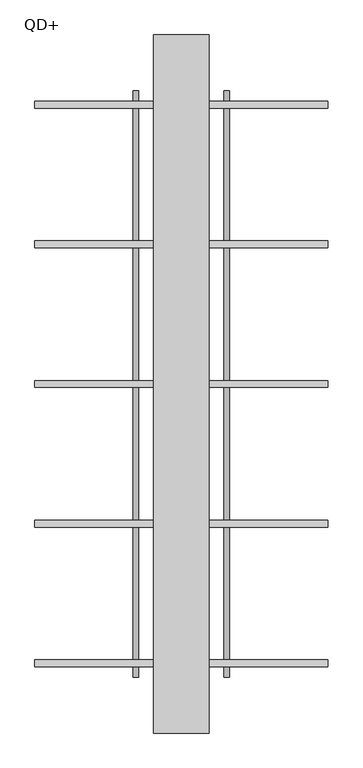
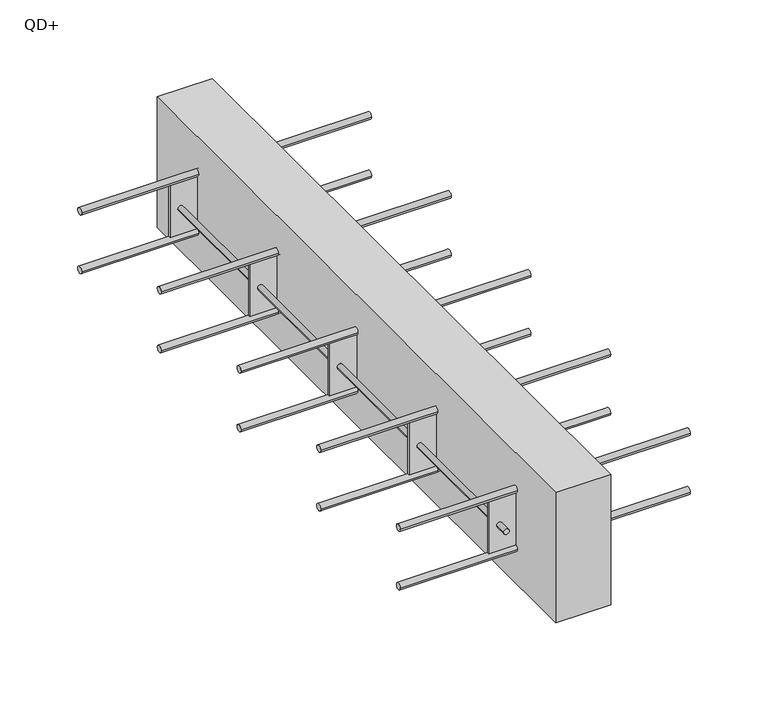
"""IFC4 building model written with IfcOpenShell, lengths in millimetres: proxy geometry, ACINOXplus_Typenreihe_Q : QD+."""

from ifc_helpers import new_model, si_unit, point, frame, frame_2d, origin, place, context, project, spatial, polyline, circle_curve, trimmed, segment, composite_curve, outline, extrude, source, transform, mapped, element, save


def qd_fc6c0e46(model_context):
    return source(origin(), model_context, "Body", "SweptSolid", [
        extrude(outline(polyline([(40.0, 500.0), (40.0, -500.0), (-40.0, -500.0), (-40.0, 500.0), (40.0, 500.0)])), frame((0.0, 0.0, -200.0), z_axis=(0.0, 0.0, 1.0), x_axis=(1.0, 0.0, 0.0)), (0.0, 0.0, 1.0), 200.0),
        extrude(outline(polyline([(80.0, -198.5), (80.0, -201.5), (-80.0, -201.5), (-80.0, -198.5), (80.0, -198.5)])), frame((0.0, 0.0, -140.0), z_axis=(0.0, 0.0, 1.0), x_axis=(1.0, 0.0, 0.0)), (0.0, 0.0, 1.0), 80.0),
        extrude(outline(polyline([(80.0, 1.5), (80.0, -1.5), (-80.0, -1.5), (-80.0, 1.5), (80.0, 1.5)])), frame((0.0, 0.0, -140.0), z_axis=(0.0, 0.0, 1.0), x_axis=(1.0, 0.0, 0.0)), (0.0, 0.0, 1.0), 80.0),
        extrude(outline(polyline([(80.0, 201.5), (80.0, 198.5), (-80.0, 198.5), (-80.0, 201.5), (80.0, 201.5)])), frame((0.0, 0.0, -140.0), z_axis=(0.0, 0.0, 1.0), x_axis=(1.0, 0.0, 0.0)), (0.0, 0.0, 1.0), 80.0),
        extrude(outline(polyline([(80.0, -398.5), (80.0, -401.5), (-80.0, -401.5), (-80.0, -398.5), (80.0, -398.5)])), frame((0.0, 0.0, -140.0), z_axis=(0.0, 0.0, 1.0), x_axis=(1.0, 0.0, 0.0)), (0.0, 0.0, 1.0), 80.0),
        extrude(outline(polyline([(80.0, 401.5), (80.0, 398.5), (-80.0, 398.5), (-80.0, 401.5), (80.0, 401.5)])), frame((0.0, 0.0, -140.0), z_axis=(0.0, 0.0, 1.0), x_axis=(1.0, 0.0, 0.0)), (0.0, 0.0, 1.0), 80.0),
        extrude(outline(composite_curve([segment(trimmed(circle_curve(frame_2d((-100.0, -65.0)), 4.0), [point((-100.0, -69.0))], [point((-100.0, -61.0))], False, "CARTESIAN"), True, "CONTINUOUS"), segment(trimmed(circle_curve(frame_2d((-100.0, -65.0)), 4.0), [point((-100.0, -61.0))], [point((-100.0, -69.0))], False, "CARTESIAN"), True, "CONTINUOUS")], self_intersect=False)), frame((0.0, -398.5, 0.0), z_axis=(0.0, 1.0, 0.0), x_axis=(0.0, 0.0, 1.0)), (0.0, 0.0, 1.0), 597.0),
        extrude(outline(composite_curve([segment(trimmed(circle_curve(frame_2d((-100.0, -65.0)), 4.0), [point((-100.0, -69.0))], [point((-100.0, -61.0))], False, "CARTESIAN"), True, "CONTINUOUS"), segment(trimmed(circle_curve(frame_2d((-100.0, -65.0)), 4.0), [point((-100.0, -61.0))], [point((-100.0, -69.0))], False, "CARTESIAN"), True, "CONTINUOUS")], self_intersect=False)), frame((0.0, 401.5, 0.0), z_axis=(0.0, 1.0, 0.0), x_axis=(0.0, 0.0, 1.0)), (0.0, 0.0, 1.0), 18.5),
        extrude(outline(composite_curve([segment(trimmed(circle_curve(frame_2d((-100.0, -65.0)), 4.0), [point((-100.0, -61.0))], [point((-100.0, -69.0))], False, "CARTESIAN"), True, "CONTINUOUS"), segment(trimmed(circle_curve(frame_2d((-100.0, -65.0)), 4.0), [point((-100.0, -69.0))], [point((-100.0, -61.0))], False, "CARTESIAN"), True, "CONTINUOUS")], self_intersect=False)), frame((0.0, -420.0, 0.0), z_axis=(0.0, 1.0, 0.0), x_axis=(0.0, 0.0, 1.0)), (0.0, 0.0, 1.0), 18.5),
        extrude(outline(composite_curve([segment(trimmed(circle_curve(frame_2d((-100.0, -65.0)), 4.0), [point((-100.0, -69.0))], [point((-100.0, -61.0))], False, "CARTESIAN"), True, "CONTINUOUS"), segment(trimmed(circle_curve(frame_2d((-100.0, -65.0)), 4.0), [point((-100.0, -61.0))], [point((-100.0, -69.0))], False, "CARTESIAN"), True, "CONTINUOUS")], self_intersect=False)), frame((0.0, 201.5, 0.0), z_axis=(0.0, 1.0, 0.0), x_axis=(0.0, 0.0, 1.0)), (0.0, 0.0, 1.0), 197.0),
        extrude(outline(composite_curve([segment(trimmed(circle_curve(frame_2d((-100.0, 65.0)), 4.0), [point((-100.0, 61.0))], [point((-100.0, 69.0))], False, "CARTESIAN"), True, "CONTINUOUS"), segment(trimmed(circle_curve(frame_2d((-100.0, 65.0)), 4.0), [point((-100.0, 69.0))], [point((-100.0, 61.0))], False, "CARTESIAN"), True, "CONTINUOUS")], self_intersect=False)), frame((0.0, -398.5, 0.0), z_axis=(0.0, 1.0, 0.0), x_axis=(0.0, 0.0, 1.0)), (0.0, 0.0, 1.0), 597.0),
        extrude(outline(composite_curve([segment(trimmed(circle_curve(frame_2d((-100.0, 65.0)), 4.0), [point((-100.0, 61.0))], [point((-100.0, 69.0))], False, "CARTESIAN"), True, "CONTINUOUS"), segment(trimmed(circle_curve(frame_2d((-100.0, 65.0)), 4.0), [point((-100.0, 69.0))], [point((-100.0, 61.0))], False, "CARTESIAN"), True, "CONTINUOUS")], self_intersect=False)), frame((0.0, 401.5, 0.0), z_axis=(0.0, 1.0, 0.0), x_axis=(0.0, 0.0, 1.0)), (0.0, 0.0, 1.0), 18.5),
        extrude(outline(composite_curve([segment(trimmed(circle_curve(frame_2d((-100.0, 65.0)), 4.0), [point((-100.0, 69.0))], [point((-100.0, 61.0))], False, "CARTESIAN"), True, "CONTINUOUS"), segment(trimmed(circle_curve(frame_2d((-100.0, 65.0)), 4.0), [point((-100.0, 61.0))], [point((-100.0, 69.0))], False, "CARTESIAN"), True, "CONTINUOUS")], self_intersect=False)), frame((0.0, -420.0, 0.0), z_axis=(0.0, 1.0, 0.0), x_axis=(0.0, 0.0, 1.0)), (0.0, 0.0, 1.0), 18.5),
        extrude(outline(composite_curve([segment(trimmed(circle_curve(frame_2d((-100.0, 65.0)), 4.0), [point((-100.0, 61.0))], [point((-100.0, 69.0))], False, "CARTESIAN"), True, "CONTINUOUS"), segment(trimmed(circle_curve(frame_2d((-100.0, 65.0)), 4.0), [point((-100.0, 69.0))], [point((-100.0, 61.0))], False, "CARTESIAN"), True, "CONTINUOUS")], self_intersect=False)), frame((0.0, 201.5, 0.0), z_axis=(0.0, 1.0, 0.0), x_axis=(0.0, 0.0, 1.0)), (0.0, 0.0, 1.0), 197.0),
        extrude(outline(composite_curve([segment(trimmed(circle_curve(frame_2d((0.0, -145.0)), 5.0), [point((-5.0, -145.0))], [point((5.0, -145.0))], False, "CARTESIAN"), True, "CONTINUOUS"), segment(trimmed(circle_curve(frame_2d((0.0, -145.0)), 5.0), [point((5.0, -145.0))], [point((-5.0, -145.0))], False, "CARTESIAN"), True, "CONTINUOUS")], self_intersect=False)), frame((-210.0, 0.0, 0.0), z_axis=(1.0, 0.0, 0.0), x_axis=(0.0, 1.0, 0.0)), (0.0, 0.0, 1.0), 420.0),
        extrude(outline(composite_curve([segment(trimmed(circle_curve(frame_2d((200.0, -145.0)), 5.0), [point((195.0, -145.0))], [point((205.0, -145.0))], False, "CARTESIAN"), True, "CONTINUOUS"), segment(trimmed(circle_curve(frame_2d((200.0, -145.0)), 5.0), [point((205.0, -145.0))], [point((195.0, -145.0))], False, "CARTESIAN"), True, "CONTINUOUS")], self_intersect=False)), frame((-210.0, 0.0, 0.0), z_axis=(1.0, 0.0, 0.0), x_axis=(0.0, 1.0, 0.0)), (0.0, 0.0, 1.0), 420.0),
        extrude(outline(composite_curve([segment(trimmed(circle_curve(frame_2d((400.0, -145.0)), 5.0), [point((395.0, -145.0))], [point((405.0, -145.0))], False, "CARTESIAN"), True, "CONTINUOUS"), segment(trimmed(circle_curve(frame_2d((400.0, -145.0)), 5.0), [point((405.0, -145.0))], [point((395.0, -145.0))], False, "CARTESIAN"), True, "CONTINUOUS")], self_intersect=False)), frame((-210.0, 0.0, 0.0), z_axis=(1.0, 0.0, 0.0), x_axis=(0.0, 1.0, 0.0)), (0.0, 0.0, 1.0), 420.0),
        extrude(outline(composite_curve([segment(trimmed(circle_curve(frame_2d((-200.0, -145.0)), 5.0), [point((-205.0, -145.0))], [point((-195.0, -145.0))], False, "CARTESIAN"), True, "CONTINUOUS"), segment(trimmed(circle_curve(frame_2d((-200.0, -145.0)), 5.0), [point((-195.0, -145.0))], [point((-205.0, -145.0))], False, "CARTESIAN"), True, "CONTINUOUS")], self_intersect=False)), frame((-210.0, 0.0, 0.0), z_axis=(1.0, 0.0, 0.0), x_axis=(0.0, 1.0, 0.0)), (0.0, 0.0, 1.0), 420.0),
        extrude(outline(composite_curve([segment(trimmed(circle_curve(frame_2d((-400.0, -145.0)), 5.0), [point((-405.0, -145.0))], [point((-395.0, -145.0))], False, "CARTESIAN"), True, "CONTINUOUS"), segment(trimmed(circle_curve(frame_2d((-400.0, -145.0)), 5.0), [point((-395.0, -145.0))], [point((-405.0, -145.0))], False, "CARTESIAN"), True, "CONTINUOUS")], self_intersect=False)), frame((-210.0, 0.0, 0.0), z_axis=(1.0, 0.0, 0.0), x_axis=(0.0, 1.0, 0.0)), (0.0, 0.0, 1.0), 420.0),
        extrude(outline(composite_curve([segment(trimmed(circle_curve(frame_2d((0.0, -55.0)), 5.0), [point((-5.0, -55.0))], [point((5.0, -55.0))], False, "CARTESIAN"), True, "CONTINUOUS"), segment(trimmed(circle_curve(frame_2d((0.0, -55.0)), 5.0), [point((5.0, -55.0))], [point((-5.0, -55.0))], False, "CARTESIAN"), True, "CONTINUOUS")], self_intersect=False)), frame((-210.0, 0.0, 0.0), z_axis=(1.0, 0.0, 0.0), x_axis=(0.0, 1.0, 0.0)), (0.0, 0.0, 1.0), 420.0),
        extrude(outline(composite_curve([segment(trimmed(circle_curve(frame_2d((200.0, -55.0)), 5.0), [point((195.0, -55.0))], [point((205.0, -55.0))], False, "CARTESIAN"), True, "CONTINUOUS"), segment(trimmed(circle_curve(frame_2d((200.0, -55.0)), 5.0), [point((205.0, -55.0))], [point((195.0, -55.0))], False, "CARTESIAN"), True, "CONTINUOUS")], self_intersect=False)), frame((-210.0, 0.0, 0.0), z_axis=(1.0, 0.0, 0.0), x_axis=(0.0, 1.0, 0.0)), (0.0, 0.0, 1.0), 420.0),
        extrude(outline(composite_curve([segment(trimmed(circle_curve(frame_2d((400.0, -55.0)), 5.0), [point((395.0, -55.0))], [point((405.0, -55.0))], False, "CARTESIAN"), True, "CONTINUOUS"), segment(trimmed(circle_curve(frame_2d((400.0, -55.0)), 5.0), [point((405.0, -55.0))], [point((395.0, -55.0))], False, "CARTESIAN"), True, "CONTINUOUS")], self_intersect=False)), frame((-210.0, 0.0, 0.0), z_axis=(1.0, 0.0, 0.0), x_axis=(0.0, 1.0, 0.0)), (0.0, 0.0, 1.0), 420.0),
        extrude(outline(composite_curve([segment(trimmed(circle_curve(frame_2d((-200.0, -55.0)), 5.0), [point((-205.0, -55.0))], [point((-195.0, -55.0))], False, "CARTESIAN"), True, "CONTINUOUS"), segment(trimmed(circle_curve(frame_2d((-200.0, -55.0)), 5.0), [point((-195.0, -55.0))], [point((-205.0, -55.0))], False, "CARTESIAN"), True, "CONTINUOUS")], self_intersect=False)), frame((-210.0, 0.0, 0.0), z_axis=(1.0, 0.0, 0.0), x_axis=(0.0, 1.0, 0.0)), (0.0, 0.0, 1.0), 420.0),
        extrude(outline(composite_curve([segment(trimmed(circle_curve(frame_2d((-400.0, -55.0)), 5.0), [point((-405.0, -55.0))], [point((-395.0, -55.0))], False, "CARTESIAN"), True, "CONTINUOUS"), segment(trimmed(circle_curve(frame_2d((-400.0, -55.0)), 5.0), [point((-395.0, -55.0))], [point((-405.0, -55.0))], False, "CARTESIAN"), True, "CONTINUOUS")], self_intersect=False)), frame((-210.0, 0.0, 0.0), z_axis=(1.0, 0.0, 0.0), x_axis=(0.0, 1.0, 0.0)), (0.0, 0.0, 1.0), 420.0),
    ])


if __name__ == "__main__":
    model = new_model("IFC4")
    model_context = context("Model", 3, world=origin())
    ifc_project = project(units=[si_unit("LENGTHUNIT", "METRE", prefix="MILLI")], contexts=[model_context])
    site = spatial("IfcSite", under=ifc_project)
    building = spatial("IfcBuilding", under=site)
    placement = place(None, origin())
    qd_shape = qd_fc6c0e46(model_context)
    element("IfcBuildingElementProxy", 1, Name="ACINOXplus_Typenreihe_Q : QD+", ObjectType="ACINOXplus_Typenreihe_Q : QD+", at=placement, inside=building, context=model_context, shape_type="MappedRepresentation", body=[
        mapped(qd_shape, transform((0.0, 0.0, 0.0), x_axis=(1.0, 0.0, 0.0), y_axis=(0.0, 1.0, 0.0), z_axis=(0.0, 0.0, 1.0))),
    ])
    save(model, "model.ifc")
